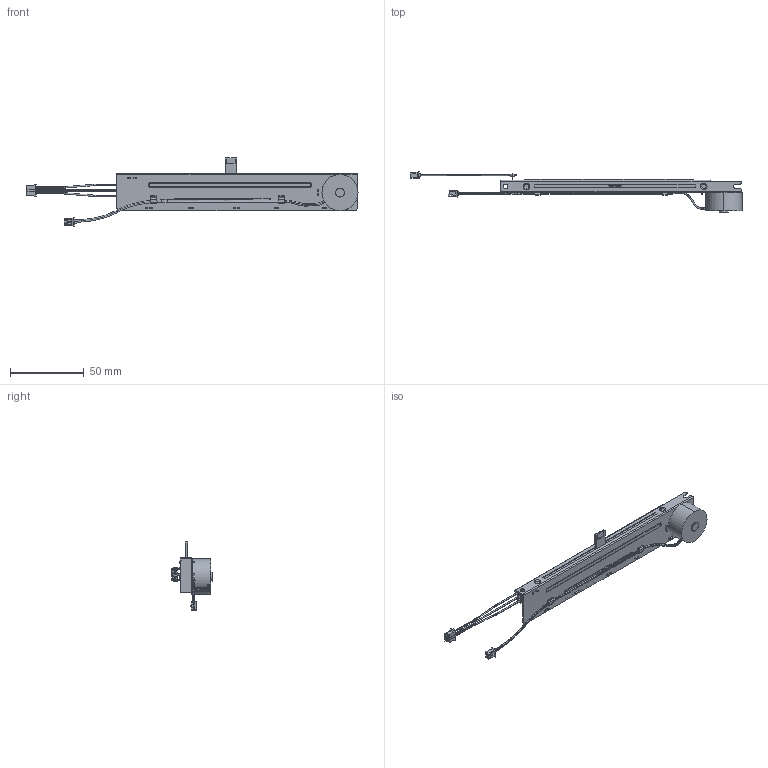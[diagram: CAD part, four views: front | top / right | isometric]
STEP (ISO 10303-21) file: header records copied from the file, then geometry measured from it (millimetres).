
FILE_DESCRIPTION (( 'STEP AP214' ), '1' );
FILE_NAME ('RSA0V11M9.STEP', '2023-08-30T01:30:48', ( '' ), ( '' ), 'SwSTEP 2.0', 'SolidWorks 2021', '' );
FILE_SCHEMA (( 'AUTOMOTIVE_DESIGN' ));
Length unit declared in the file: millimetre
Products named in the file (1): RSA0V11M9
Bounding box: 224.73 x 27.45 x 46.44 mm (x, y, z)
Volume: 33531 mm3; surface area: 14907.5 mm2
Topology: 1 solids, 1 shells, 793 faces, 2101 edges, 1345 vertices
Faces by surface type: plane 467, cylinder 235, bspline 67, cone 24
Entity records: 30686 total; most frequent: CARTESIAN_POINT 7822, ORIENTED_EDGE 4194, DIRECTION 3766, EDGE_CURVE 2097, VECTOR 1396, LINE 1396, VERTEX_POINT 1345, AXIS2_PLACEMENT_3D 1185
